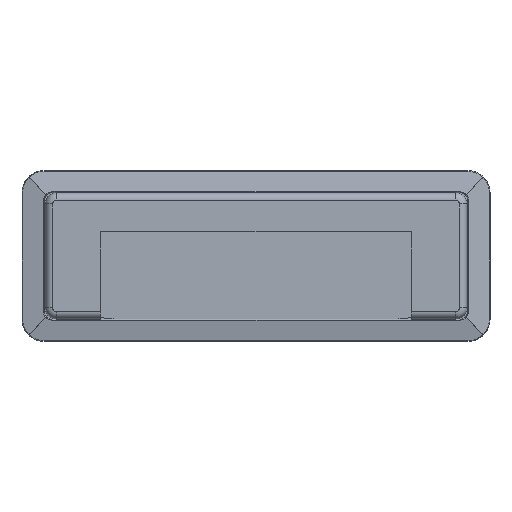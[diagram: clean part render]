
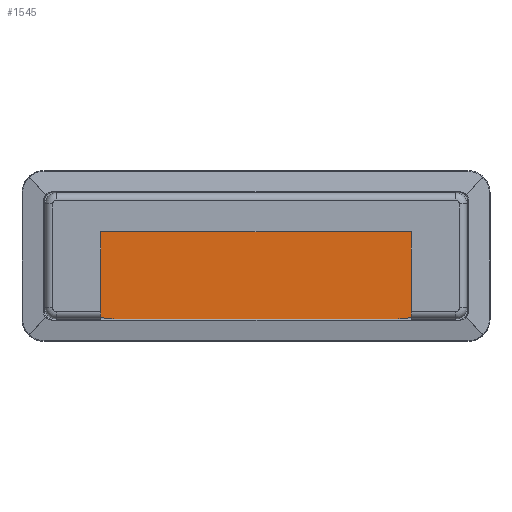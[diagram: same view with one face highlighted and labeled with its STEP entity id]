
A CAD part, top view. The second image highlights one B-rep face of the part: STEP entity #1545.
In plain terms, the highlighted planar face has unit normal (0, 0, 1).
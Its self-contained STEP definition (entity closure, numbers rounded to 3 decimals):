
#150 = CARTESIAN_POINT ( 'NONE',  ( -37.9, 17.25, -3.75 ) ) ;
#162 = DIRECTION ( 'NONE',  ( 0., 0., 1. ) ) ;
#211 = FACE_BOUND ( 'NONE', #2896, .T. ) ;
#216 = DIRECTION ( 'NONE',  ( 1., 0., 0. ) ) ;
#317 = PLANE ( 'NONE',  #2204 ) ;
#321 = FACE_BOUND ( 'NONE', #1287, .T. ) ;
#337 = EDGE_CURVE ( 'NONE', #2372, #2989, #735, .T. ) ;
#427 = DIRECTION ( 'NONE',  ( 1., 0., 0. ) ) ;
#449 = VERTEX_POINT ( 'NONE', #3846 ) ;
#456 = CARTESIAN_POINT ( 'NONE',  ( -49., 0., -3.75 ) ) ;
#466 = EDGE_CURVE ( 'NONE', #2989, #2372, #3781, .T. ) ;
#570 = VERTEX_POINT ( 'NONE', #2740 ) ;
#665 = DIRECTION ( 'NONE',  ( 1., 0., 0. ) ) ;
#735 = CIRCLE ( 'NONE', #1638, 2. ) ;
#741 = CARTESIAN_POINT ( 'NONE',  ( -37.9, 0., -3.75 ) ) ;
#747 = VERTEX_POINT ( 'NONE', #3753 ) ;
#837 = CARTESIAN_POINT ( 'NONE',  ( 47., 0., -3.75 ) ) ;
#869 = AXIS2_PLACEMENT_3D ( 'NONE', #4002, #1990, #4358 ) ;
#888 = DIRECTION ( 'NONE',  ( 0., 0., 1. ) ) ;
#911 = ORIENTED_EDGE ( 'NONE', *, *, #3124, .T. ) ;
#922 = CIRCLE ( 'NONE', #3956, 2. ) ;
#991 = VECTOR ( 'NONE', #1579, 1000. ) ;
#1044 = ORIENTED_EDGE ( 'NONE', *, *, #337, .F. ) ;
#1082 = DIRECTION ( 'NONE',  ( 1., 0., 0. ) ) ;
#1096 = EDGE_CURVE ( 'NONE', #2576, #1964, #2343, .T. ) ;
#1177 = DIRECTION ( 'NONE',  ( 1., 0., 0. ) ) ;
#1181 = VERTEX_POINT ( 'NONE', #150 ) ;
#1192 = EDGE_CURVE ( 'NONE', #1964, #449, #2696, .T. ) ;
#1218 = EDGE_CURVE ( 'NONE', #2888, #747, #922, .T. ) ;
#1270 = ORIENTED_EDGE ( 'NONE', *, *, #1218, .F. ) ;
#1287 = EDGE_LOOP ( 'NONE', ( #2565, #1044 ) ) ;
#1295 = CARTESIAN_POINT ( 'NONE',  ( -37.9, -17.25, -3.75 ) ) ;
#1328 = ORIENTED_EDGE ( 'NONE', *, *, #1704, .T. ) ;
#1414 = ORIENTED_EDGE ( 'NONE', *, *, #1192, .T. ) ;
#1435 = VECTOR ( 'NONE', #427, 1000. ) ;
#1507 = EDGE_CURVE ( 'NONE', #570, #2576, #2340, .T. ) ;
#1545 = ADVANCED_FACE ( 'NONE', ( #211, #321, #2904 ), #317, .T. ) ;
#1577 = ORIENTED_EDGE ( 'NONE', *, *, #2956, .F. ) ;
#1579 = DIRECTION ( 'NONE',  ( -1., 0., 0. ) ) ;
#1638 = AXIS2_PLACEMENT_3D ( 'NONE', #3035, #2361, #216 ) ;
#1704 = EDGE_CURVE ( 'NONE', #1181, #570, #3277, .T. ) ;
#1718 = DIRECTION ( 'NONE',  ( 1., 0., 0. ) ) ;
#1805 = CARTESIAN_POINT ( 'NONE',  ( 45., 0., -3.75 ) ) ;
#1964 = VERTEX_POINT ( 'NONE', #2201 ) ;
#1990 = DIRECTION ( 'NONE',  ( 0., 0., 1. ) ) ;
#2088 = LINE ( 'NONE', #4282, #991 ) ;
#2193 = CARTESIAN_POINT ( 'NONE',  ( 37.9, 0., -3.75 ) ) ;
#2201 = CARTESIAN_POINT ( 'NONE',  ( 37.9, -17.25, -3.75 ) ) ;
#2204 = AXIS2_PLACEMENT_3D ( 'NONE', #3694, #2674, #665 ) ;
#2237 = AXIS2_PLACEMENT_3D ( 'NONE', #3408, #4069, #1718 ) ;
#2299 = ORIENTED_EDGE ( 'NONE', *, *, #1507, .T. ) ;
#2340 = CIRCLE ( 'NONE', #869, 17.25 ) ;
#2343 = LINE ( 'NONE', #2461, #1435 ) ;
#2348 = AXIS2_PLACEMENT_3D ( 'NONE', #2193, #162, #2533 ) ;
#2361 = DIRECTION ( 'NONE',  ( 0., 0., 1. ) ) ;
#2372 = VERTEX_POINT ( 'NONE', #456 ) ;
#2461 = CARTESIAN_POINT ( 'NONE',  ( -37.9, -17.25, -3.75 ) ) ;
#2506 = CIRCLE ( 'NONE', #3293, 2. ) ;
#2533 = DIRECTION ( 'NONE',  ( 1., 0., 0. ) ) ;
#2565 = ORIENTED_EDGE ( 'NONE', *, *, #466, .F. ) ;
#2576 = VERTEX_POINT ( 'NONE', #1295 ) ;
#2674 = DIRECTION ( 'NONE',  ( 0., 0., 1. ) ) ;
#2696 = CIRCLE ( 'NONE', #2348, 17.25 ) ;
#2740 = CARTESIAN_POINT ( 'NONE',  ( -55.15, 0., -3.75 ) ) ;
#2870 = AXIS2_PLACEMENT_3D ( 'NONE', #741, #3083, #1082 ) ;
#2880 = CARTESIAN_POINT ( 'NONE',  ( 47., 0., -3.75 ) ) ;
#2888 = VERTEX_POINT ( 'NONE', #1805 ) ;
#2896 = EDGE_LOOP ( 'NONE', ( #1577, #1270 ) ) ;
#2904 = FACE_OUTER_BOUND ( 'NONE', #3056, .T. ) ;
#2956 = EDGE_CURVE ( 'NONE', #747, #2888, #2506, .T. ) ;
#2989 = VERTEX_POINT ( 'NONE', #3874 ) ;
#3035 = CARTESIAN_POINT ( 'NONE',  ( -47., 0., -3.75 ) ) ;
#3056 = EDGE_LOOP ( 'NONE', ( #1328, #2299, #3382, #1414, #911 ) ) ;
#3083 = DIRECTION ( 'NONE',  ( 0., 0., 1. ) ) ;
#3124 = EDGE_CURVE ( 'NONE', #449, #1181, #2088, .T. ) ;
#3184 = DIRECTION ( 'NONE',  ( 0., 0., 1. ) ) ;
#3227 = DIRECTION ( 'NONE',  ( 1., 0., 0. ) ) ;
#3277 = CIRCLE ( 'NONE', #2870, 17.25 ) ;
#3293 = AXIS2_PLACEMENT_3D ( 'NONE', #837, #3184, #1177 ) ;
#3382 = ORIENTED_EDGE ( 'NONE', *, *, #1096, .T. ) ;
#3408 = CARTESIAN_POINT ( 'NONE',  ( -47., 0., -3.75 ) ) ;
#3694 = CARTESIAN_POINT ( 'NONE',  ( -37.9, 0., -3.75 ) ) ;
#3753 = CARTESIAN_POINT ( 'NONE',  ( 49., 0., -3.75 ) ) ;
#3781 = CIRCLE ( 'NONE', #2237, 2. ) ;
#3846 = CARTESIAN_POINT ( 'NONE',  ( 37.9, 17.25, -3.75 ) ) ;
#3874 = CARTESIAN_POINT ( 'NONE',  ( -45., 0., -3.75 ) ) ;
#3956 = AXIS2_PLACEMENT_3D ( 'NONE', #2880, #888, #3227 ) ;
#4002 = CARTESIAN_POINT ( 'NONE',  ( -37.9, 0., -3.75 ) ) ;
#4069 = DIRECTION ( 'NONE',  ( 0., 0., 1. ) ) ;
#4282 = CARTESIAN_POINT ( 'NONE',  ( -37.9, 17.25, -3.75 ) ) ;
#4358 = DIRECTION ( 'NONE',  ( 1., 0., 0. ) ) ;
